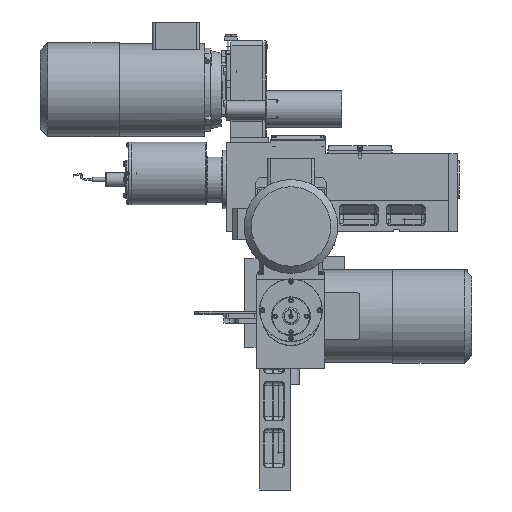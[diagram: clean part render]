
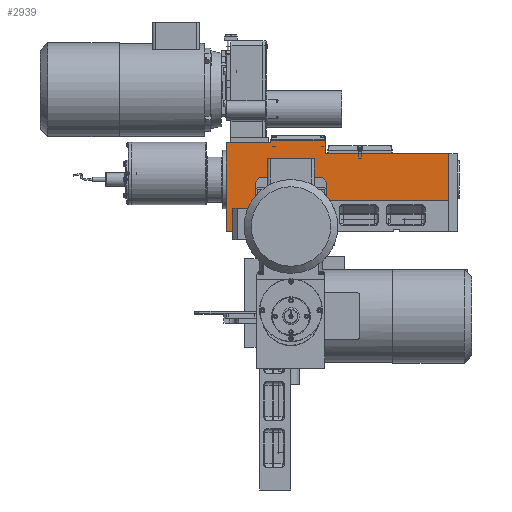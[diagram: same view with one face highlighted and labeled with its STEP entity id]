
A CAD part, front view. The second image highlights one B-rep face of the part: STEP entity #2939.
In plain terms, the highlighted planar face has unit normal (0, -1, 0).
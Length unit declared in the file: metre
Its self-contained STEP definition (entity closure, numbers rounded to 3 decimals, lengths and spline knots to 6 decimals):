
#2939 = ADVANCED_FACE( '', ( #4644 ), #4645, .T. );
#4644 = FACE_OUTER_BOUND( '', #8853, .T. );
#4645 = PLANE( '', #8854 );
#8853 = EDGE_LOOP( '', ( #14481, #14482, #14483, #14484, #14485, #14486, #14487, #14488, #14489, #14490 ) );
#8854 = AXIS2_PLACEMENT_3D( '', #14491, #14492, #14493 );
#14481 = ORIENTED_EDGE( '', *, *, #18637, .T. );
#14482 = ORIENTED_EDGE( '', *, *, #18638, .T. );
#14483 = ORIENTED_EDGE( '', *, *, #18600, .F. );
#14484 = ORIENTED_EDGE( '', *, *, #18634, .T. );
#14485 = ORIENTED_EDGE( '', *, *, #18627, .T. );
#14486 = ORIENTED_EDGE( '', *, *, #18619, .T. );
#14487 = ORIENTED_EDGE( '', *, *, #18639, .T. );
#14488 = ORIENTED_EDGE( '', *, *, #18602, .T. );
#14489 = ORIENTED_EDGE( '', *, *, #18614, .T. );
#14490 = ORIENTED_EDGE( '', *, *, #18636, .T. );
#14491 = CARTESIAN_POINT( '', ( 0.337, -0.003889, 0. ) );
#14492 = DIRECTION( '', ( 0., -1., 0. ) );
#14493 = DIRECTION( '', ( 1., 0., 0. ) );
#18600 = EDGE_CURVE( '', #21340, #21335, #21342, .T. );
#18602 = EDGE_CURVE( '', #21346, #21344, #21347, .T. );
#18614 = EDGE_CURVE( '', #21344, #21365, #21367, .T. );
#18619 = EDGE_CURVE( '', #21375, #21373, #21376, .T. );
#18627 = EDGE_CURVE( '', #21388, #21375, #21389, .T. );
#18634 = EDGE_CURVE( '', #21340, #21388, #21398, .T. );
#18636 = EDGE_CURVE( '', #21365, #21399, #21401, .T. );
#18637 = EDGE_CURVE( '', #21399, #21402, #21403, .T. );
#18638 = EDGE_CURVE( '', #21402, #21335, #21404, .T. );
#18639 = EDGE_CURVE( '', #21373, #21346, #21405, .T. );
#21335 = VERTEX_POINT( '', #26849 );
#21340 = VERTEX_POINT( '', #26856 );
#21342 = LINE( '', #26859, #26860 );
#21344 = VERTEX_POINT( '', #26862 );
#21346 = VERTEX_POINT( '', #26865 );
#21347 = LINE( '', #26866, #26867 );
#21365 = VERTEX_POINT( '', #26895 );
#21367 = LINE( '', #26898, #26899 );
#21373 = VERTEX_POINT( '', #26908 );
#21375 = VERTEX_POINT( '', #26911 );
#21376 = LINE( '', #26912, #26913 );
#21388 = VERTEX_POINT( '', #26932 );
#21389 = LINE( '', #26933, #26934 );
#21398 = LINE( '', #26949, #26950 );
#21399 = VERTEX_POINT( '', #26951 );
#21401 = LINE( '', #26954, #26955 );
#21402 = VERTEX_POINT( '', #26956 );
#21403 = LINE( '', #26957, #26958 );
#21404 = LINE( '', #26959, #26960 );
#21405 = LINE( '', #26961, #26962 );
#26849 = CARTESIAN_POINT( '', ( -0.088, -0.003889, -0.059 ) );
#26856 = CARTESIAN_POINT( '', ( -0.005, -0.003889, -0.059 ) );
#26859 = CARTESIAN_POINT( '', ( -0.005, -0.003889, -0.059 ) );
#26860 = VECTOR( '', #30627, 1. );
#26862 = CARTESIAN_POINT( '', ( 0.102, -0.003889, 0.115 ) );
#26865 = CARTESIAN_POINT( '', ( 0.102, -0.003889, 0.09 ) );
#26866 = CARTESIAN_POINT( '', ( 0.102, -0.003889, 0.09 ) );
#26867 = VECTOR( '', #30629, 1. );
#26895 = CARTESIAN_POINT( '', ( -0.003, -0.003889, 0.115 ) );
#26898 = CARTESIAN_POINT( '', ( -0.005, -0.003889, 0.115 ) );
#26899 = VECTOR( '', #30641, 1. );
#26908 = CARTESIAN_POINT( '', ( 0.337, -0.003889, 0.09 ) );
#26911 = CARTESIAN_POINT( '', ( 0.337, -0.003889, 0. ) );
#26912 = CARTESIAN_POINT( '', ( 0.337, -0.003889, 0. ) );
#26913 = VECTOR( '', #30646, 1. );
#26932 = CARTESIAN_POINT( '', ( -0.005, -0.003889, 0. ) );
#26933 = CARTESIAN_POINT( '', ( -0.005, -0.003889, 0. ) );
#26934 = VECTOR( '', #30654, 1. );
#26949 = CARTESIAN_POINT( '', ( -0.005, -0.003889, -0.059 ) );
#26950 = VECTOR( '', #30661, 1. );
#26951 = CARTESIAN_POINT( '', ( -0.003, -0.003889, 0.11 ) );
#26954 = CARTESIAN_POINT( '', ( -0.003, -0.003889, 0.058735 ) );
#26955 = VECTOR( '', #30663, 1. );
#26956 = CARTESIAN_POINT( '', ( -0.088, -0.003889, 0.11 ) );
#26957 = CARTESIAN_POINT( '', ( 0.14575, -0.003889, 0.11 ) );
#26958 = VECTOR( '', #30664, 1. );
#26959 = CARTESIAN_POINT( '', ( -0.088, -0.003889, -0.059 ) );
#26960 = VECTOR( '', #30665, 1. );
#26961 = CARTESIAN_POINT( '', ( -0.005, -0.003889, 0.09 ) );
#26962 = VECTOR( '', #30666, 1. );
#30627 = DIRECTION( '', ( -1., 0., 0. ) );
#30629 = DIRECTION( '', ( 0., 0., 1. ) );
#30641 = DIRECTION( '', ( -1., 0., 0. ) );
#30646 = DIRECTION( '', ( 0., 0., 1. ) );
#30654 = DIRECTION( '', ( 1., 0., 0. ) );
#30661 = DIRECTION( '', ( 0., 0., 1. ) );
#30663 = DIRECTION( '', ( 0., 0., -1. ) );
#30664 = DIRECTION( '', ( -1., 0., 0. ) );
#30665 = DIRECTION( '', ( 0., 0., -1. ) );
#30666 = DIRECTION( '', ( -1., 0., 0. ) );
